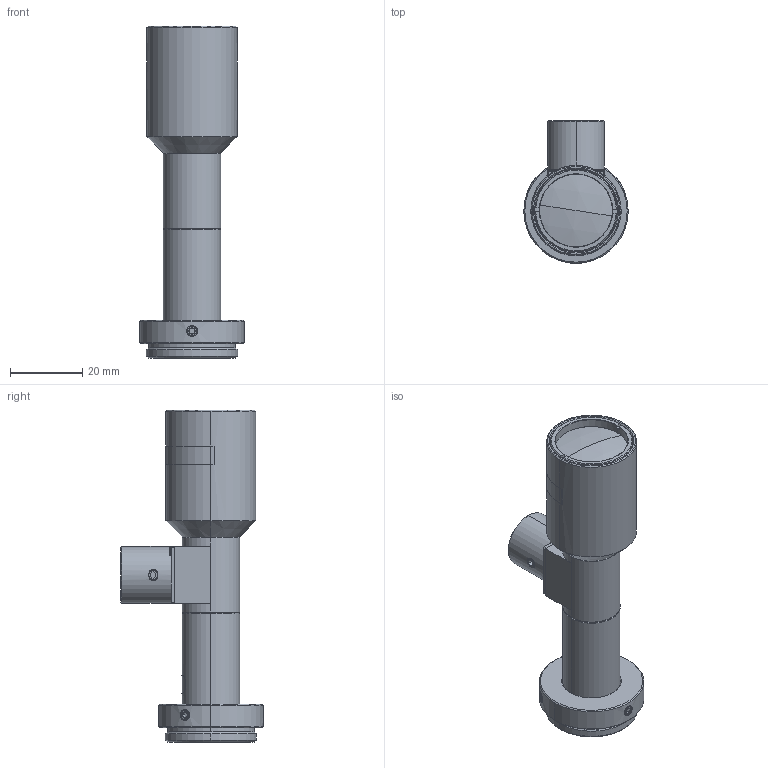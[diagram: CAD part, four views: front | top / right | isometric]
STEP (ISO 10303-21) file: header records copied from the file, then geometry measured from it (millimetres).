
FILE_DESCRIPTION (( 'STEP AP214' ), '1' );
FILE_NAME ('TEC-M0865MPC_210311.STEP', '2021-03-11T08:03:53', ( '' ), ( '' ), 'SwSTEP 2.0', 'SolidWorks 2019', '' );
FILE_SCHEMA (( 'AUTOMOTIVE_DESIGN' ));
Length unit declared in the file: millimetre
Products named in the file (1): TEC-M0865MPC_210311
Bounding box: 29 x 39.5 x 92.19 mm (x, y, z)
Volume: 19827.6 mm3; surface area: 18020.5 mm2
Topology: 17 solids, 17 shells, 532 faces, 1247 edges, 775 vertices
Faces by surface type: plane 204, cylinder 146, cone 146, torus 16, sphere 12, bspline 8
Entity records: 22874 total; most frequent: CARTESIAN_POINT 4384, DIRECTION 2752, ORIENTED_EDGE 2478, EDGE_CURVE 1239, AXIS2_PLACEMENT_3D 1103, VERTEX_POINT 775, EDGE_LOOP 598, CIRCLE 578
